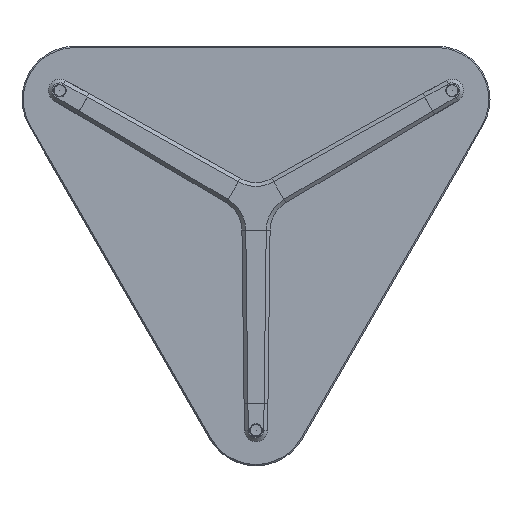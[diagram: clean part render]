
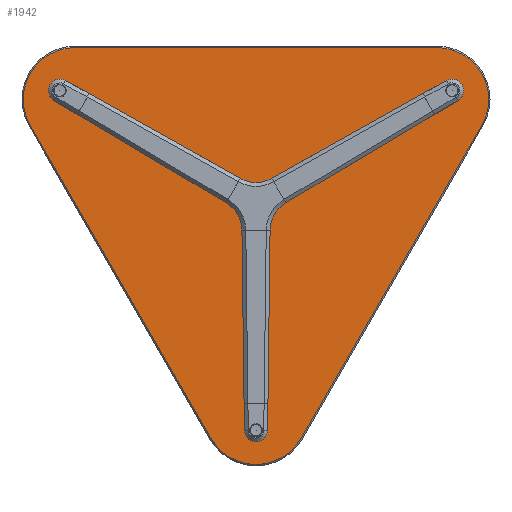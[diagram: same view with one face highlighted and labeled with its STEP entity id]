
A CAD part, front view. The second image highlights one B-rep face of the part: STEP entity #1942.
In plain terms, the highlighted planar face has unit normal (0, -1, 0).
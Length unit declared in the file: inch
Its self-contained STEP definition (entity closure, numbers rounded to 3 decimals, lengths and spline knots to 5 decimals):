
#339=PLANE('',#2381);
#450=FACE_OUTER_BOUND('',#582,.T.);
#582=EDGE_LOOP('',(#1739,#1740,#1741,#1742,#1743,#1744));
#690=LINE('',#3916,#818);
#694=LINE('',#3928,#822);
#698=LINE('',#3940,#826);
#818=VECTOR('',#2908,0.3937);
#822=VECTOR('',#2920,0.3937);
#826=VECTOR('',#2932,0.3937);
#930=CIRCLE('',#2368,2.53558);
#932=CIRCLE('',#2372,2.53558);
#934=CIRCLE('',#2376,2.53558);
#1062=VERTEX_POINT('',#3909);
#1065=VERTEX_POINT('',#3914);
#1066=VERTEX_POINT('',#3918);
#1068=VERTEX_POINT('',#3924);
#1070=VERTEX_POINT('',#3930);
#1072=VERTEX_POINT('',#3936);
#1282=EDGE_CURVE('',#1065,#1062,#690,.T.);
#1285=EDGE_CURVE('',#1062,#1066,#930,.T.);
#1288=EDGE_CURVE('',#1066,#1068,#694,.T.);
#1291=EDGE_CURVE('',#1068,#1070,#932,.T.);
#1294=EDGE_CURVE('',#1070,#1072,#698,.T.);
#1296=EDGE_CURVE('',#1072,#1065,#934,.T.);
#1739=ORIENTED_EDGE('',*,*,#1282,.F.);
#1740=ORIENTED_EDGE('',*,*,#1296,.F.);
#1741=ORIENTED_EDGE('',*,*,#1294,.F.);
#1742=ORIENTED_EDGE('',*,*,#1291,.F.);
#1743=ORIENTED_EDGE('',*,*,#1288,.F.);
#1744=ORIENTED_EDGE('',*,*,#1285,.F.);
#1942=ADVANCED_FACE('',(#450),#339,.F.);
#2368=AXIS2_PLACEMENT_3D('',#3922,#2914,#2915);
#2372=AXIS2_PLACEMENT_3D('',#3934,#2926,#2927);
#2376=AXIS2_PLACEMENT_3D('',#3943,#2937,#2938);
#2381=AXIS2_PLACEMENT_3D('',#3958,#2953,#2954);
#2908=DIRECTION('',(-0.5,0.,-0.866));
#2914=DIRECTION('center_axis',(0.,1.,0.));
#2915=DIRECTION('ref_axis',(0.866,0.,-0.5));
#2920=DIRECTION('',(-0.5,0.,0.866));
#2926=DIRECTION('center_axis',(0.,1.,0.));
#2927=DIRECTION('ref_axis',(-0.866,0.,-0.5));
#2932=DIRECTION('',(1.,0.,0.));
#2937=DIRECTION('center_axis',(0.,1.,0.));
#2938=DIRECTION('ref_axis',(0.,0.,1.));
#2953=DIRECTION('center_axis',(0.,1.,0.));
#2954=DIRECTION('ref_axis',(0.,0.,1.));
#3909=CARTESIAN_POINT('',(2.19587,0.,-11.47035));
#3914=CARTESIAN_POINT('',(11.03155,0.,3.83349));
#3916=CARTESIAN_POINT('',(8.2704,0.,-0.94896));
#3918=CARTESIAN_POINT('',(-2.19587,0.,-11.47035));
#3922=CARTESIAN_POINT('Origin',(0.,0.,-10.20257));
#3924=CARTESIAN_POINT('',(-11.03155,0.,3.83349));
#3928=CARTESIAN_POINT('',(-3.85256,0.,-8.60088));
#3930=CARTESIAN_POINT('',(-8.83568,0.,7.63686));
#3934=CARTESIAN_POINT('Origin',(-8.83568,0.,5.10128));
#3936=CARTESIAN_POINT('',(8.83568,0.,7.63686));
#3940=CARTESIAN_POINT('',(-4.41784,0.,7.63686));
#3943=CARTESIAN_POINT('Origin',(8.83568,0.,5.10128));
#3958=CARTESIAN_POINT('Origin',(0.,0.,-2.55064));
